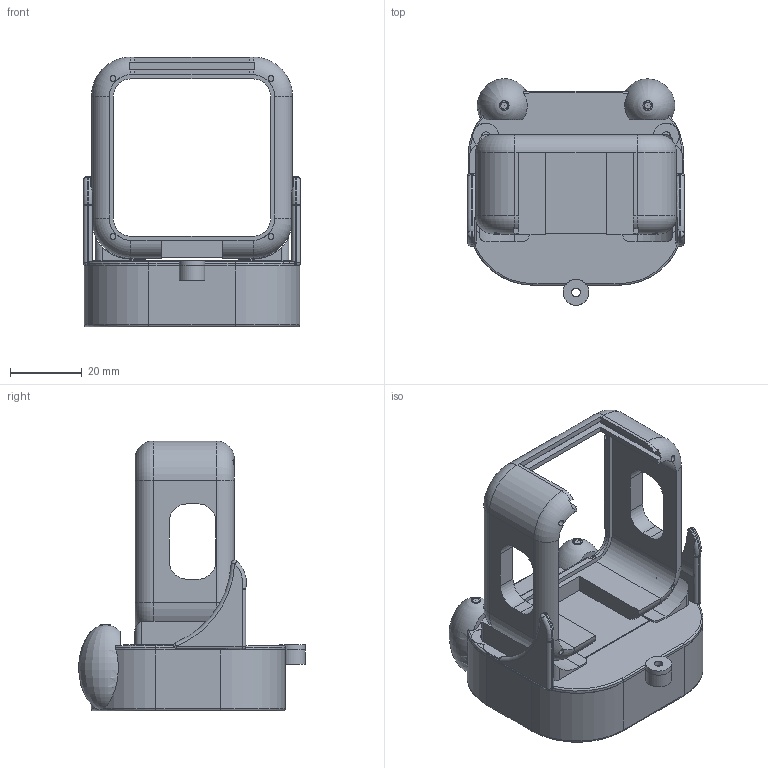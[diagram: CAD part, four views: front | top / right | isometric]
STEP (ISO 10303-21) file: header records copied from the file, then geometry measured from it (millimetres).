
FILE_DESCRIPTION(('Open CASCADE Model'),'2;1');
FILE_NAME('Open CASCADE Shape Model','2026-09-27T12:46:21',('Author'),( 'Open CASCADE'),'Open CASCADE STEP processor 7.8','Open CASCADE 7.8' ,'Unknown');
FILE_SCHEMA(('AUTOMOTIVE_DESIGN { 1 0 10303 214 1 1 1 1 }'));
Length unit declared in the file: millimetre
Products named in the file (8): Mochi-levitation-mechanical-study; float-cup; mochi-saddle-lid; vendor-float-2; vendor-float-3; vendor-float-8; vendor-float-21; mochi-sleeve-reference
Assembly tree (7 placements, depth 2):
  Mochi-levitation-mechanical-study
    float-cup
    mochi-saddle-lid
    vendor-float-2
    vendor-float-3
    vendor-float-8
    vendor-float-21
    mochi-sleeve-reference
Bounding box: 60.4 x 63.1 x 75.2 mm (x, y, z)
Volume: 44651.5 mm3; surface area: 49099.5 mm2
Topology: 7 solids, 7 shells, 630 faces, 1643 edges, 1028 vertices
Faces by surface type: cylinder 233, plane 225, torus 60, cone 48, extrusion 28, revolution 22, sphere 12, bspline 2
Full cylindrical faces by diameter (mm): 1.6 x4, 2.4 x6, 7.2 x1
Entity records: 79339 total; most frequent: CARTESIAN_POINT 48181, DIRECTION 5361, ORIENTED_EDGE 3262, PCURVE 3262, DEFINITIONAL_REPRESENTATION 3262, VECTOR 2740, LINE 2712, EDGE_CURVE 1631
